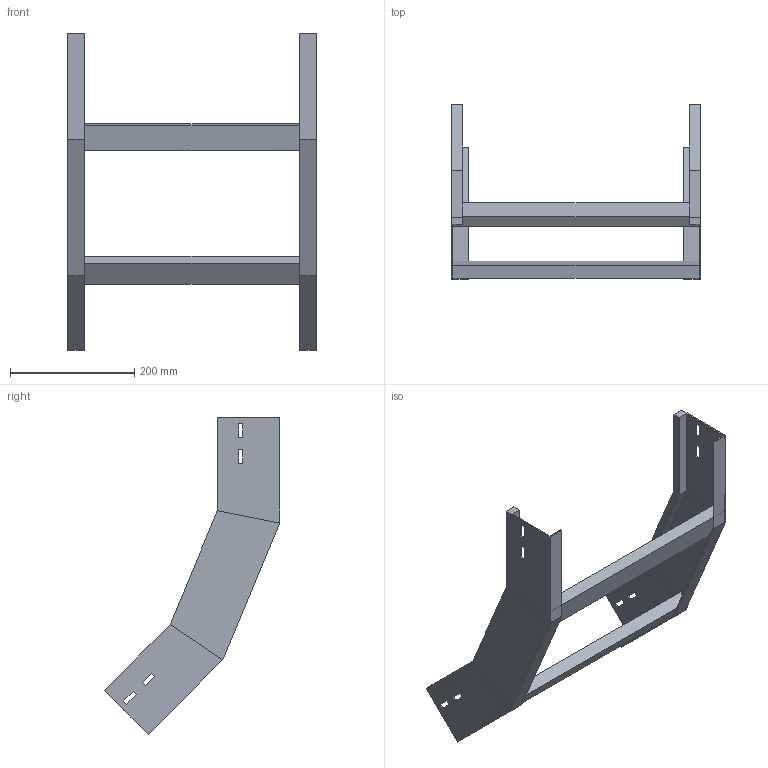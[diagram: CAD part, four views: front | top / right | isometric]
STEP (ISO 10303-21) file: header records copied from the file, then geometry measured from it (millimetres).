
FILE_DESCRIPTION (( 'STEP AP214' ), '1' );
FILE_NAME ('A2X31B5D400XX.step', '2025-03-20T10:04:31', ( '' ), ( '' ), 'SwSTEP 2.0', 'SolidWorks 2023', '' );
FILE_SCHEMA (( 'AUTOMOTIVE_DESIGN' ));
Length unit declared in the file: millimetre
Products named in the file (3): LONGH.SALITA_45°_H100_R500; A2X31B5D400XX; TRAVERSINO_400
Assembly tree (4 placements, depth 2):
  A2X31B5D400XX
    LONGH.SALITA_45°_H100_R500  x2
    TRAVERSINO_400  x2
Bounding box: 400 x 281.75 x 509.5 mm (x, y, z)
Volume: 1104676.9 mm3; surface area: 408422.2 mm2
Topology: 4 solids, 4 shells, 96 faces, 232 edges, 144 vertices
Faces by surface type: plane 96
Entity records: 1472 total; most frequent: CARTESIAN_POINT 243, ORIENTED_EDGE 232, DIRECTION 226, EDGE_CURVE 116, VECTOR 116, LINE 116, VERTEX_POINT 72, EDGE_LOOP 56
